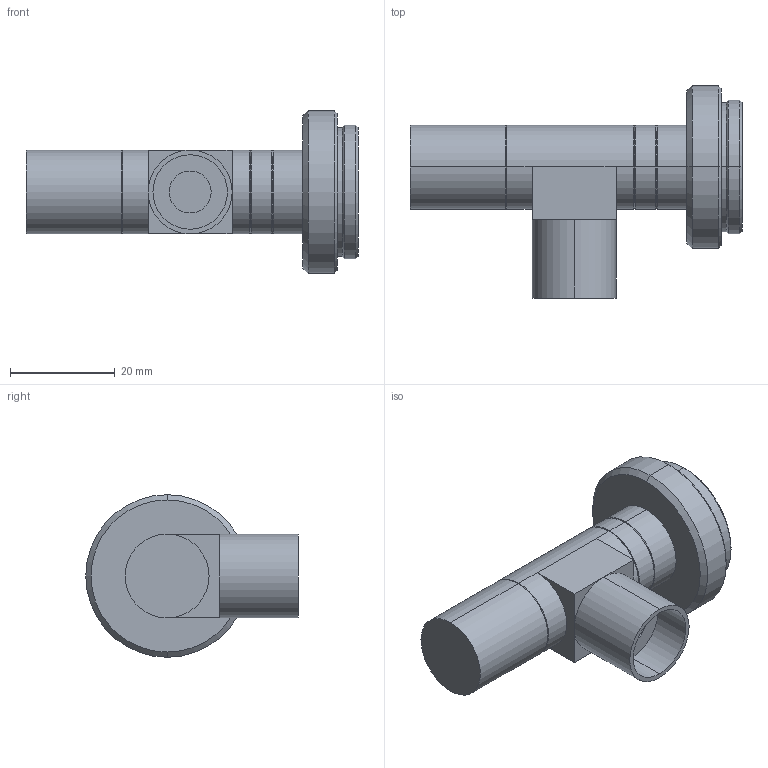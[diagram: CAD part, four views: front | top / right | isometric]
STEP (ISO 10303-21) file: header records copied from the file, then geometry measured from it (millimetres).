
FILE_DESCRIPTION (( 'STEP AP203' ), '1' );
FILE_NAME ('VS-TC3-65CO.STEP', '2017-07-19T05:00:03', ( 'miura_vst' ), ( '' ), 'SwSTEP 2.0', 'SolidWorks 2017', '' );
FILE_SCHEMA (( 'CONFIG_CONTROL_DESIGN' ));
Length unit declared in the file: millimetre
Products named in the file (1): VS-TC3-65CO
Bounding box: 63.3 x 40.5 x 31 mm (x, y, z)
Volume: 19846.4 mm3; surface area: 6633.3 mm2
Topology: 1 solids, 1 shells, 56 faces, 112 edges, 62 vertices
Faces by surface type: cylinder 21, cone 20, plane 15
Entity records: 1505 total; most frequent: DIRECTION 282, CARTESIAN_POINT 231, ORIENTED_EDGE 224, AXIS2_PLACEMENT_3D 113, EDGE_CURVE 112, VERTEX_POINT 62, EDGE_LOOP 60, FACE_OUTER_BOUND 56
